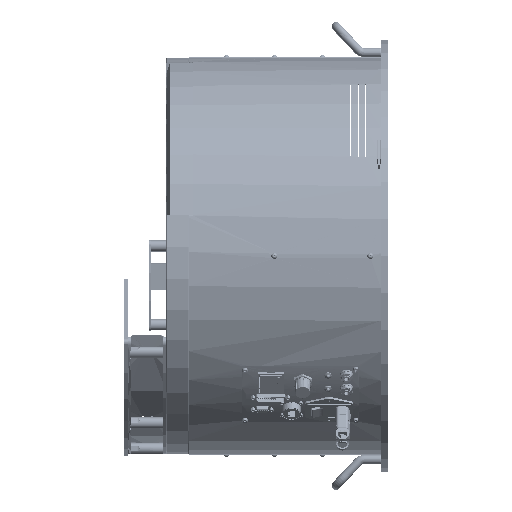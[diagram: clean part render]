
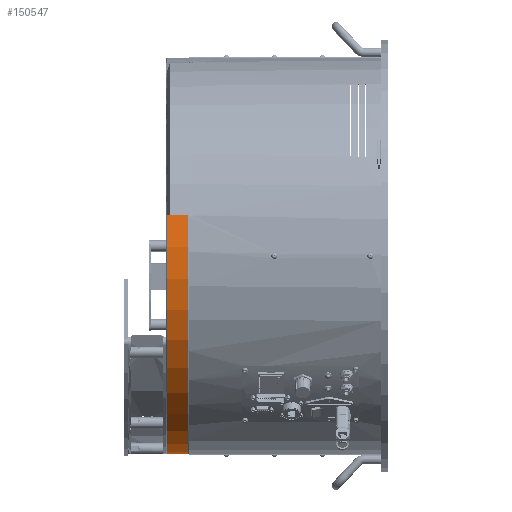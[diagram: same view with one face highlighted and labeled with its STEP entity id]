
A CAD part, left-side view. The second image highlights one B-rep face of the part: STEP entity #150547.
In plain terms, the highlighted cylindrical face has radius 266.5 mm (diameter 533 mm), a partial arc.
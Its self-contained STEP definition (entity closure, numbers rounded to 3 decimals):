
#5492 = CIRCLE ( 'NONE', #210806, 266.5 ) ;
#12141 = CARTESIAN_POINT ( 'NONE',  ( 55.408, -260.676, 1. ) ) ;
#14280 = EDGE_CURVE ( 'NONE', #116027, #348174, #5492, .T. ) ;
#28902 = CYLINDRICAL_SURFACE ( 'NONE', #171393, 266.5 ) ;
#30011 = CARTESIAN_POINT ( 'NONE',  ( -266.5, 0., 1. ) ) ;
#35733 = CARTESIAN_POINT ( 'NONE',  ( -266.5, 0., 29. ) ) ;
#38014 = VECTOR ( 'NONE', #101211, 1000. ) ;
#79422 = ORIENTED_EDGE ( 'NONE', *, *, #14280, .T. ) ;
#101211 = DIRECTION ( 'NONE',  ( 0., 0., -1. ) ) ;
#116027 = VERTEX_POINT ( 'NONE', #119604 ) ;
#119604 = CARTESIAN_POINT ( 'NONE',  ( 55.408, -260.676, 29. ) ) ;
#124266 = ORIENTED_EDGE ( 'NONE', *, *, #133801, .T. ) ;
#129014 = ORIENTED_EDGE ( 'NONE', *, *, #227041, .F. ) ;
#133801 = EDGE_CURVE ( 'NONE', #232059, #249932, #174892, .T. ) ;
#139830 = AXIS2_PLACEMENT_3D ( 'NONE', #196890, #292157, #192496 ) ;
#150547 = ADVANCED_FACE ( 'NONE', ( #297031 ), #28902, .T. ) ;
#158820 = LINE ( 'NONE', #437785, #38014 ) ;
#159395 = VECTOR ( 'NONE', #250202, 1000. ) ;
#170726 = DIRECTION ( 'NONE',  ( 0., 0., -1. ) ) ;
#171393 = AXIS2_PLACEMENT_3D ( 'NONE', #370033, #170726, #230490 ) ;
#174892 = CIRCLE ( 'NONE', #139830, 266.5 ) ;
#175146 = CARTESIAN_POINT ( 'NONE',  ( 55.408, -260.676, 29. ) ) ;
#192496 = DIRECTION ( 'NONE',  ( 1., 0., 0. ) ) ;
#196890 = CARTESIAN_POINT ( 'NONE',  ( 0., 0., 1. ) ) ;
#210806 = AXIS2_PLACEMENT_3D ( 'NONE', #399300, #408088, #332879 ) ;
#227041 = EDGE_CURVE ( 'NONE', #116027, #249932, #412079, .T. ) ;
#230490 = DIRECTION ( 'NONE',  ( -1., 0., 0. ) ) ;
#232059 = VERTEX_POINT ( 'NONE', #30011 ) ;
#249835 = EDGE_CURVE ( 'NONE', #348174, #232059, #158820, .T. ) ;
#249932 = VERTEX_POINT ( 'NONE', #12141 ) ;
#250129 = EDGE_LOOP ( 'NONE', ( #337333, #124266, #129014, #79422 ) ) ;
#250202 = DIRECTION ( 'NONE',  ( 0., 0., -1. ) ) ;
#292157 = DIRECTION ( 'NONE',  ( 0., 0., 1. ) ) ;
#297031 = FACE_OUTER_BOUND ( 'NONE', #250129, .T. ) ;
#332879 = DIRECTION ( 'NONE',  ( 1., 0., 0. ) ) ;
#337333 = ORIENTED_EDGE ( 'NONE', *, *, #249835, .T. ) ;
#348174 = VERTEX_POINT ( 'NONE', #35733 ) ;
#370033 = CARTESIAN_POINT ( 'NONE',  ( 0., 0., 30. ) ) ;
#399300 = CARTESIAN_POINT ( 'NONE',  ( 0., 0., 29. ) ) ;
#408088 = DIRECTION ( 'NONE',  ( 0., 0., -1. ) ) ;
#412079 = LINE ( 'NONE', #175146, #159395 ) ;
#437785 = CARTESIAN_POINT ( 'NONE',  ( -266.5, 0., 30. ) ) ;
